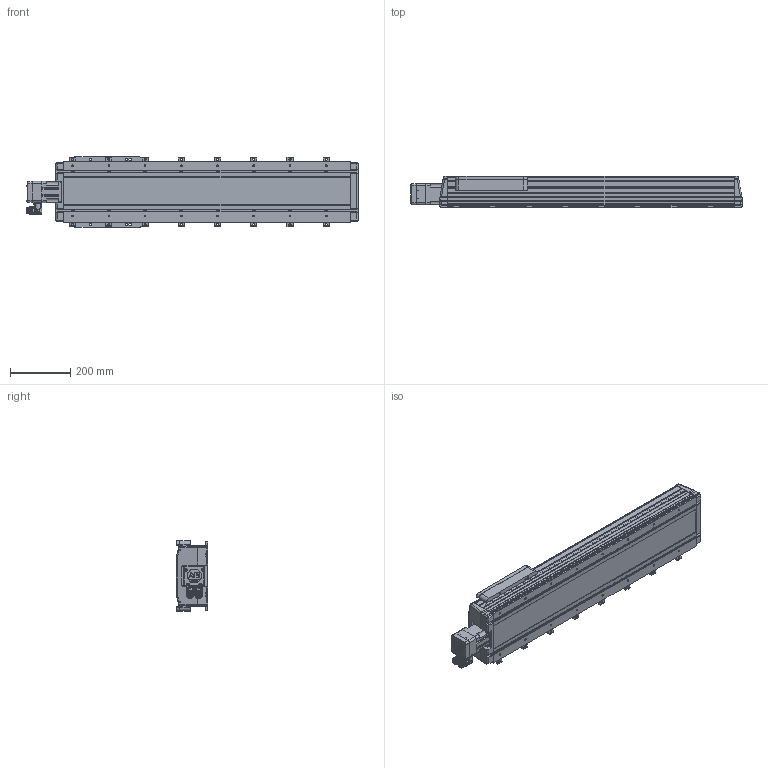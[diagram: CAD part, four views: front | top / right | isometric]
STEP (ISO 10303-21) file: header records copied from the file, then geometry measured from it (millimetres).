
FILE_DESCRIPTION((''),'2;1');
FILE_NAME('MPAS-A80661-V05S2A_ASM','2007-08-01T',('jayapriya'),(''),'PRO/ENGINEER BY PARAMETRIC TECHNOLOGY CORPORATION, 2006200','PRO/ENGINEER BY PARAMETRIC TECHNOLOGY CORPORATION, 2006200','');
FILE_SCHEMA(('CONFIG_CONTROL_DESIGN'));
Length unit declared in the file: millimetre
Products named in the file (12): PART-1_200_B_1001; PART-2_200_B; PART-3_200_B; PART-4_200_B; PART-5_200_B_1001; PART-6_200_B; PART-7_200_B; MPL-210-HSNG42AA; MPL-200-CONN-SIGNAL; MPL-200-CONN-POWER; MPLS-X210E-VJ42AA_ASM; MPAS-A80661-V05S2A_ASM
Assembly tree (41 placements, depth 3):
  MPAS-A80661-V05S2A_ASM
    PART-1_200_B_1001
    PART-2_200_B
    PART-3_200_B
    PART-4_200_B
    PART-5_200_B_1001
    PART-6_200_B  x16
    PART-7_200_B  x16
    MPLS-X210E-VJ42AA_ASM
      MPL-210-HSNG42AA
      MPL-200-CONN-SIGNAL
      MPL-200-CONN-POWER
Bounding box: 1099.75 x 105.4 x 232 mm (x, y, z)
Volume: 9346047.9 mm3; surface area: 1998233.9 mm2
Topology: 40 solids, 74 shells, 2542 faces, 6911 edges, 4565 vertices
Faces by surface type: cylinder 1157, plane 1106, cone 138, torus 83, bspline 42, sphere 16
Entity records: 77509 total; most frequent: CARTESIAN_POINT 20862, ORIENTED_EDGE 11930, DIRECTION 11763, EDGE_CURVE 5967, AXIS2_PLACEMENT_3D 4311, VERTEX_POINT 3965, VECTOR 3141, LINE 3141
